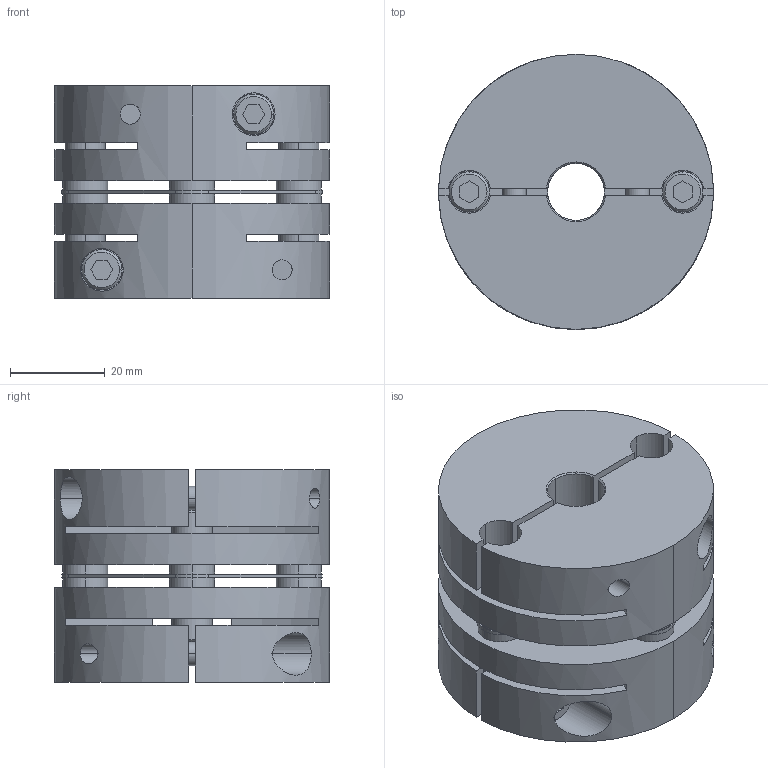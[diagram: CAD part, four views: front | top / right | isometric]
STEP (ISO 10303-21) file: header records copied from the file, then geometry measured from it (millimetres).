
FILE_DESCRIPTION((''),'2;1');
FILE_NAME('LAS-58C-12×19.stp','2011-08-09T15:23:11',(''),(''),'AutoCAD STEP 2000i','AutoCAD 2000i',', , ');
FILE_SCHEMA(('CONFIG_CONTROL_DESIGN'));
Length unit declared in the file: millimetre
Products named in the file (6): LAS-58C-12×19; 忣兜1; LA-5802-D19; LA-5802-D12-1; LA-5802-D12; LAS58-ITA
Assembly tree (5 placements, depth 2):
  LAS-58C-12×19
    忣兜1
    LA-5802-D19
    LA-5802-D12-1
    LA-5802-D12
    LAS58-ITA
Bounding box: 58 x 58 x 44.8 mm (x, y, z)
Volume: 88372.2 mm3; surface area: 33415 mm2
Topology: 1 solids, 1 shells, 238 faces, 618 edges, 404 vertices
Faces by surface type: plane 114, cylinder 96, cone 28
Entity records: 8213 total; most frequent: CARTESIAN_POINT 1988, DIRECTION 1316, ORIENTED_EDGE 1240, EDGE_CURVE 620, AXIS2_PLACEMENT_3D 484, VERTEX_POINT 404, VECTOR 348, LINE 348
